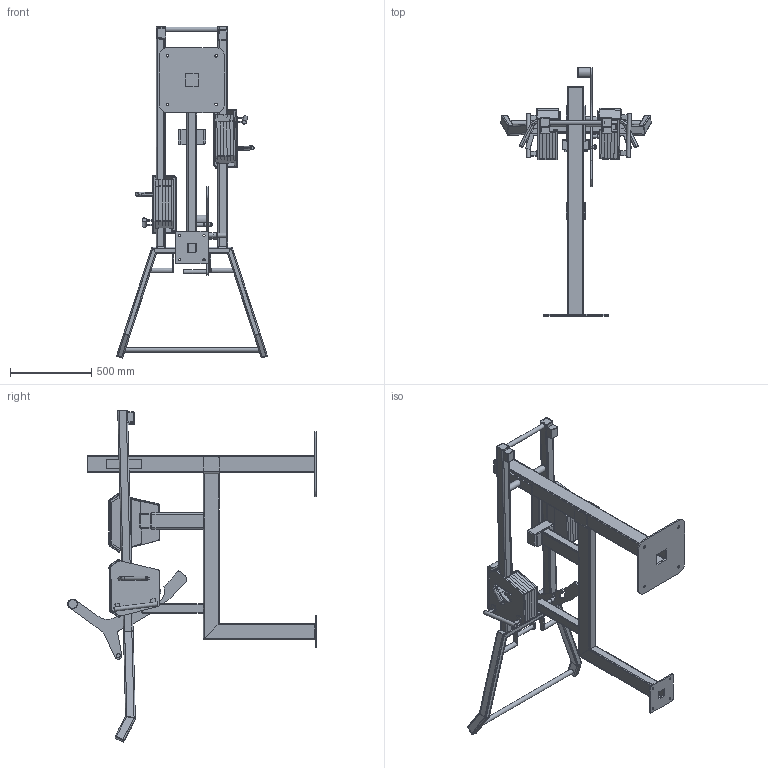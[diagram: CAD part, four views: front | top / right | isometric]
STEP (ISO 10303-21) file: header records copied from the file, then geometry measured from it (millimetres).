
FILE_DESCRIPTION(/* description */ (''),/* implementation_level */ '2;1');
FILE_NAME(/* name */ 'OG10_3D_Low.step',/* time_stamp */ '2025-11-11T15:54:23+02:00',/* author */ (''),/* organization */ (''),/* preprocessor_version */ 'ST-DEVELOPER v20.1',/* originating_system */ 'Autodesk Translation Framework v14.21.0.0',/* authorisation */ '');
FILE_SCHEMA (('AUTOMOTIVE_DESIGN { 1 0 10303 214 3 1 1 }','TECHNICAL_DATA_PACKAGING'));
Length unit declared in the file: millimetre
Products named in the file (1): OG10_3D_Low
Bounding box: 929.01 x 1533.08 x 2047.03 mm (x, y, z)
Volume: 26477567.6 mm3; surface area: 7563219 mm2
Topology: 77 solids, 78 shells, 1320 faces, 3193 edges, 2024 vertices
Faces by surface type: plane 716, cylinder 501, torus 44, bspline 27, cone 20, sphere 12
Full cylindrical faces by diameter (mm): 8.5 x3, 12 x2, 13 x34, 14 x4, 15 x2, 15.2 x2, 16 x4, 17.034 x1, 22 x1, 25 x6, 28 x1, 28.2 x1, 29 x2, 30 x6, 38 x1, 39.8 x2, 40 x5, 60 x1
Entity records: 43027 total; most frequent: CARTESIAN_POINT 11039, DIRECTION 6817, ORIENTED_EDGE 6384, EDGE_CURVE 3192, AXIS2_PLACEMENT_3D 2412, VERTEX_POINT 2024, LINE 1993, VECTOR 1993
